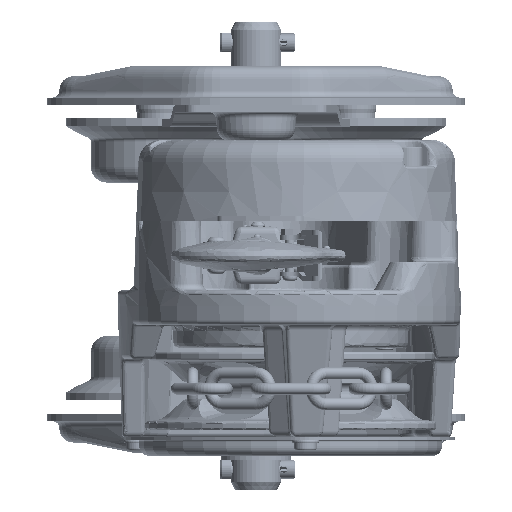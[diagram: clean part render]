
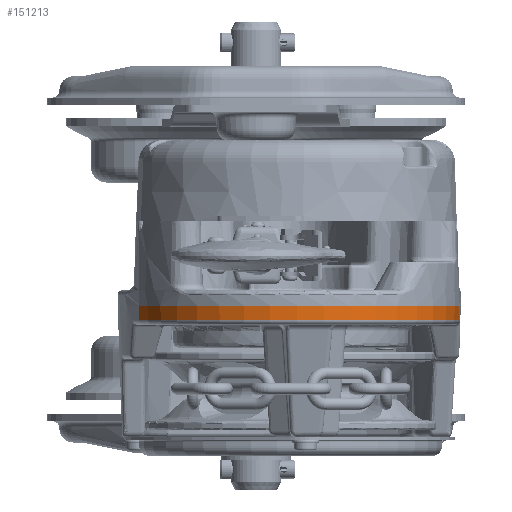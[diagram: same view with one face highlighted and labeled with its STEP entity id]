
A CAD part, front view. The second image highlights one B-rep face of the part: STEP entity #151213.
In plain terms, the highlighted conical face has half-angle 2 degrees and reference radius 69 mm.
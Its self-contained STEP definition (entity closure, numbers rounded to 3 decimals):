
#2725 = DIRECTION ( 'NONE',  ( 0., 0., -1. ) ) ;
#19608 = DIRECTION ( 'NONE',  ( 0., 0., 1. ) ) ;
#22043 = CONICAL_SURFACE ( 'NONE', #160994, 69., 0.035 ) ;
#26209 = VERTEX_POINT ( 'NONE', #116490 ) ;
#30389 = DIRECTION ( 'NONE',  ( -1., 0., 0. ) ) ;
#32513 = VERTEX_POINT ( 'NONE', #34510 ) ;
#34510 = CARTESIAN_POINT ( 'NONE',  ( -69.851, -41.419, 13.07 ) ) ;
#39394 = CARTESIAN_POINT ( 'NONE',  ( 69.851, -41.419, 13.07 ) ) ;
#61902 = VECTOR ( 'NONE', #160664, 1000. ) ;
#95504 = AXIS2_PLACEMENT_3D ( 'NONE', #196606, #2725, #135657 ) ;
#98408 = LINE ( 'NONE', #133240, #156947 ) ;
#100608 = EDGE_CURVE ( 'NONE', #227989, #32513, #214610, .T. ) ;
#106888 = EDGE_LOOP ( 'NONE', ( #165590, #154655, #134068, #130018 ) ) ;
#116490 = CARTESIAN_POINT ( 'NONE',  ( 70.07, -41.455, 6.727 ) ) ;
#123706 = EDGE_CURVE ( 'NONE', #32513, #137063, #98408, .T. ) ;
#128495 = FACE_OUTER_BOUND ( 'NONE', #106888, .T. ) ;
#130018 = ORIENTED_EDGE ( 'NONE', *, *, #133772, .T. ) ;
#133240 = CARTESIAN_POINT ( 'NONE',  ( -68.096, -41.132, 64. ) ) ;
#133772 = EDGE_CURVE ( 'NONE', #137063, #26209, #169272, .T. ) ;
#134068 = ORIENTED_EDGE ( 'NONE', *, *, #123706, .T. ) ;
#135657 = DIRECTION ( 'NONE',  ( 1., 0., 0. ) ) ;
#137063 = VERTEX_POINT ( 'NONE', #243612 ) ;
#143504 = DIRECTION ( 'NONE',  ( 0., 0., -1. ) ) ;
#145934 = CARTESIAN_POINT ( 'NONE',  ( 0., -30., 64. ) ) ;
#151213 = ADVANCED_FACE ( 'NONE', ( #128495 ), #22043, .T. ) ;
#152581 = DIRECTION ( 'NONE',  ( 1., 0., 0. ) ) ;
#154655 = ORIENTED_EDGE ( 'NONE', *, *, #100608, .T. ) ;
#156947 = VECTOR ( 'NONE', #210396, 1000. ) ;
#160664 = DIRECTION ( 'NONE',  ( 0.034, -0.006, -0.999 ) ) ;
#160994 = AXIS2_PLACEMENT_3D ( 'NONE', #145934, #143504, #30389 ) ;
#165590 = ORIENTED_EDGE ( 'NONE', *, *, #208151, .F. ) ;
#169272 = CIRCLE ( 'NONE', #177264, 71. ) ;
#176926 = CARTESIAN_POINT ( 'NONE',  ( 68.096, -41.132, 64. ) ) ;
#177264 = AXIS2_PLACEMENT_3D ( 'NONE', #245984, #19608, #152581 ) ;
#195608 = LINE ( 'NONE', #176926, #61902 ) ;
#196606 = CARTESIAN_POINT ( 'NONE',  ( 0., -30., 13.07 ) ) ;
#208151 = EDGE_CURVE ( 'NONE', #227989, #26209, #195608, .T. ) ;
#210396 = DIRECTION ( 'NONE',  ( -0.034, -0.006, -0.999 ) ) ;
#214610 = CIRCLE ( 'NONE', #95504, 70.779 ) ;
#227989 = VERTEX_POINT ( 'NONE', #39394 ) ;
#243612 = CARTESIAN_POINT ( 'NONE',  ( -70.07, -41.455, 6.727 ) ) ;
#245984 = CARTESIAN_POINT ( 'NONE',  ( 0., -30., 6.727 ) ) ;
